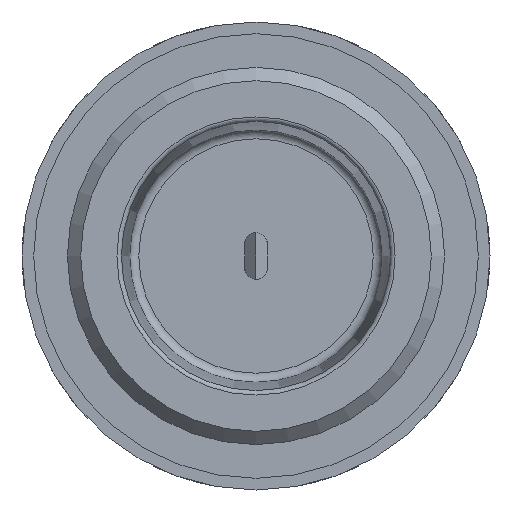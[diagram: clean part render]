
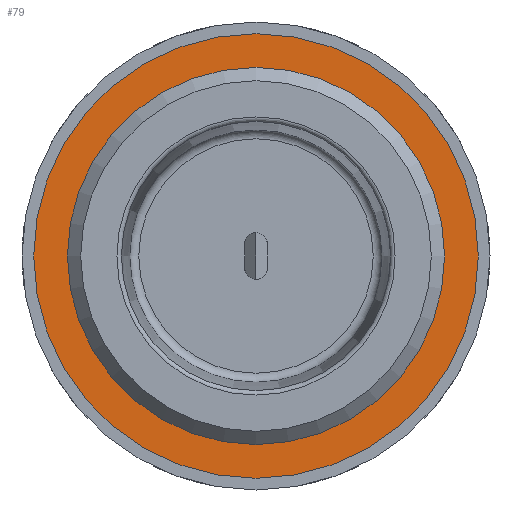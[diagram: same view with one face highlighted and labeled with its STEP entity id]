
A CAD part, left-side view. The second image highlights one B-rep face of the part: STEP entity #79.
In plain terms, the highlighted planar face has unit normal (-1, 0, 0).
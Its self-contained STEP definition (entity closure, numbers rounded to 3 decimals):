
#79 = ADVANCED_FACE( '', ( #148, #149 ), #150, .T. );
#148 = FACE_BOUND( '', #287, .T. );
#149 = FACE_OUTER_BOUND( '', #288, .T. );
#150 = PLANE( '', #289 );
#287 = EDGE_LOOP( '', ( #440 ) );
#288 = EDGE_LOOP( '', ( #441 ) );
#289 = AXIS2_PLACEMENT_3D( '', #442, #443, #444 );
#440 = ORIENTED_EDGE( '', *, *, #909, .T. );
#441 = ORIENTED_EDGE( '', *, *, #910, .F. );
#442 = CARTESIAN_POINT( '', ( 11.7, 24.7, 0. ) );
#443 = DIRECTION( '', ( -1., 0., 0. ) );
#444 = DIRECTION( '', ( 0., -1., 0. ) );
#909 = EDGE_CURVE( '', #1066, #1066, #1067, .T. );
#910 = EDGE_CURVE( '', #1068, #1068, #1069, .T. );
#1066 = VERTEX_POINT( '', #1326 );
#1067 = CIRCLE( '', #1327, 20.955 );
#1068 = VERTEX_POINT( '', #1328 );
#1069 = CIRCLE( '', #1329, 24.7 );
#1326 = CARTESIAN_POINT( '', ( 11.7, 20.955, 0. ) );
#1327 = AXIS2_PLACEMENT_3D( '', #1700, #1701, #1702 );
#1328 = CARTESIAN_POINT( '', ( 11.7, 24.7, 0. ) );
#1329 = AXIS2_PLACEMENT_3D( '', #1703, #1704, #1705 );
#1700 = CARTESIAN_POINT( '', ( 11.7, 0., 0. ) );
#1701 = DIRECTION( '', ( 1., 0., 0. ) );
#1702 = DIRECTION( '', ( 0., 1., 0. ) );
#1703 = CARTESIAN_POINT( '', ( 11.7, 0., 0. ) );
#1704 = DIRECTION( '', ( 1., 0., 0. ) );
#1705 = DIRECTION( '', ( 0., 1., 0. ) );
